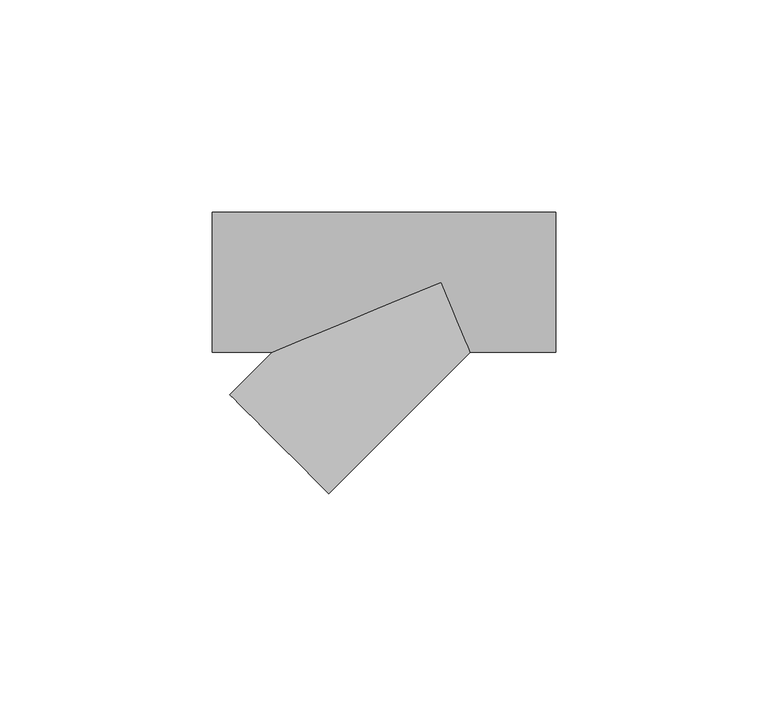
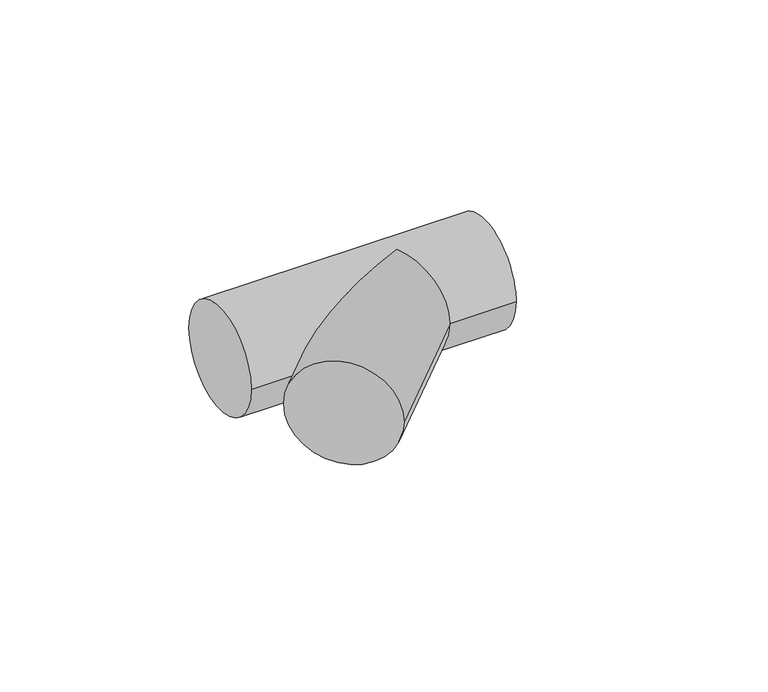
"""IFC4 building model written with IfcOpenShell, lengths in millimetres: pipe fitting geometry, 010513441 : Tes 45º."""

from ifc_helpers import new_model, si_unit, frame, origin, place, context, project, spatial, circle_curve, ellipse_curve, source, transform, mapped, element, save
from ifc_brep_helpers import plane_surface, cylinder_surface, advanced_brep


def pipe_fitting_b7467552(model_context):
    return source(origin(), model_context, "Body", "AdvancedBrep", [
        advanced_brep(
        [(-54.0, -16.5, 0.0), (-54.0, 16.5, 0.0), (27.0, -16.5, 0.0), (27.0, 16.5, 0.0), (-39.8345238, -16.5, 0.0), (0.0, 0.0, 16.5), (6.8345238, -16.5, 0.0), (0.0, 0.0, -16.5), (-49.8510281, -26.5165043, 0.0), (-26.5165043, -49.8510281, 0.0)],
        [
            (0, 1, circle_curve(frame((-54.0, 0.0, 0.0), z_axis=(-1.0, 0.0, 0.0), x_axis=(0.0, 1.0, 0.0)), 16.5)),
            (1, 0, circle_curve(frame((-54.0, 0.0, 0.0), z_axis=(-1.0, 0.0, 0.0), x_axis=(0.0, 1.0, 0.0)), 16.5)),
            (2, 3, circle_curve(frame((27.0, 0.0, 0.0), z_axis=(1.0, 0.0, 0.0), x_axis=(0.0, 1.0, 0.0)), 16.5)),
            (3, 2, circle_curve(frame((27.0, 0.0, 0.0), z_axis=(1.0, 0.0, 0.0), x_axis=(0.0, 1.0, 0.0)), 16.5)),
            (0, 4),
            (4, 5, ellipse_curve(frame((0.0, 0.0, 0.0), z_axis=(-0.382683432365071, 0.9238795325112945, 0.0), x_axis=(-0.9238795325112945, -0.38268343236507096, 0.0)), 43.1165778, 16.5)),
            (5, 6, ellipse_curve(frame((0.0, 0.0, 0.0), z_axis=(0.9238795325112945, 0.38268343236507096, 0.0), x_axis=(-0.38268343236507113, 0.9238795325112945, 0.0)), 17.8594713, 16.5)),
            (6, 2),
            (3, 1),
            (6, 7, ellipse_curve(frame((0.0, 0.0, 0.0), z_axis=(0.9238795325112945, 0.38268343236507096, 0.0), x_axis=(-0.38268343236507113, 0.9238795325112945, 0.0)), 17.8594713, 16.5)),
            (7, 4, ellipse_curve(frame((0.0, 0.0, 0.0), z_axis=(-0.382683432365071, 0.9238795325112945, 0.0), x_axis=(-0.9238795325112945, -0.38268343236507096, 0.0)), 43.1165778, 16.5)),
            (8, 9, circle_curve(frame((-38.1837662, -38.1837662, 0.0), z_axis=(-0.707106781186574, -0.707106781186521, 0.0), x_axis=(0.707106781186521, -0.707106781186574, 0.0)), 16.5)),
            (9, 8, circle_curve(frame((-38.1837662, -38.1837662, 0.0), z_axis=(-0.707106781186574, -0.707106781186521, 0.0), x_axis=(0.707106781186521, -0.707106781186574, 0.0)), 16.5)),
            (9, 6),
            (4, 8),
        ],
        [
            plane_surface(frame((-54.0, 0.0, 0.0), z_axis=(-1.0, 0.0, 0.0), x_axis=(0.0, 0.0, 1.0))),
            plane_surface(frame((27.0, 0.0, 0.0), z_axis=(1.0, 0.0, 0.0), x_axis=(0.0, 0.0, 1.0))),
            cylinder_surface(frame((-54.0, 0.0, 0.0), z_axis=(-1.0, 0.0, 0.0), x_axis=(0.0, 1.0, 0.0)), 16.5),
            plane_surface(frame((-38.1837662, -38.1837662, 0.0), z_axis=(-0.707106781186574, -0.707106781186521, 0.0), x_axis=(0.0, 0.0, 1.0))),
            cylinder_surface(frame((0.0, 0.0, 0.0), z_axis=(0.707106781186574, 0.707106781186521, 0.0), x_axis=(0.707106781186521, -0.707106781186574, 0.0)), 16.5),
        ],
        [
            (0, [[1, 2]]),
            (1, [[3, 4]]),
            (2, [[-1, 5, 6, 7, 8, -4, 9]]),
            (2, [[-2, -9, -3, -8, 10, 11, -5]]),
            (3, [[12, 13]]),
            (4, [[-13, 14, -7, -6, 15]]),
            (4, [[-12, -15, -11, -10, -14]]),
        ],
    ),
    ])


if __name__ == "__main__":
    model = new_model("IFC4")
    model_context = context("Model", 3, world=origin())
    ifc_project = project(units=[si_unit("LENGTHUNIT", "METRE", prefix="MILLI")], contexts=[model_context])
    site = spatial("IfcSite", under=ifc_project)
    building = spatial("IfcBuilding", under=site)
    placement = place(None, origin())
    pipe_fitting_shape = pipe_fitting_b7467552(model_context)
    element("IfcPipeFitting", 1, ObjectType="010513441 : Tes 45º", at=placement, inside=building, context=model_context, shape_type="MappedRepresentation", body=[
        mapped(pipe_fitting_shape, transform((0.0, 0.0, 0.0), x_axis=(1.0, 0.0, 0.0), y_axis=(0.0, 1.0, 0.0), z_axis=(0.0, 0.0, 1.0))),
    ])
    save(model, "model.ifc")
